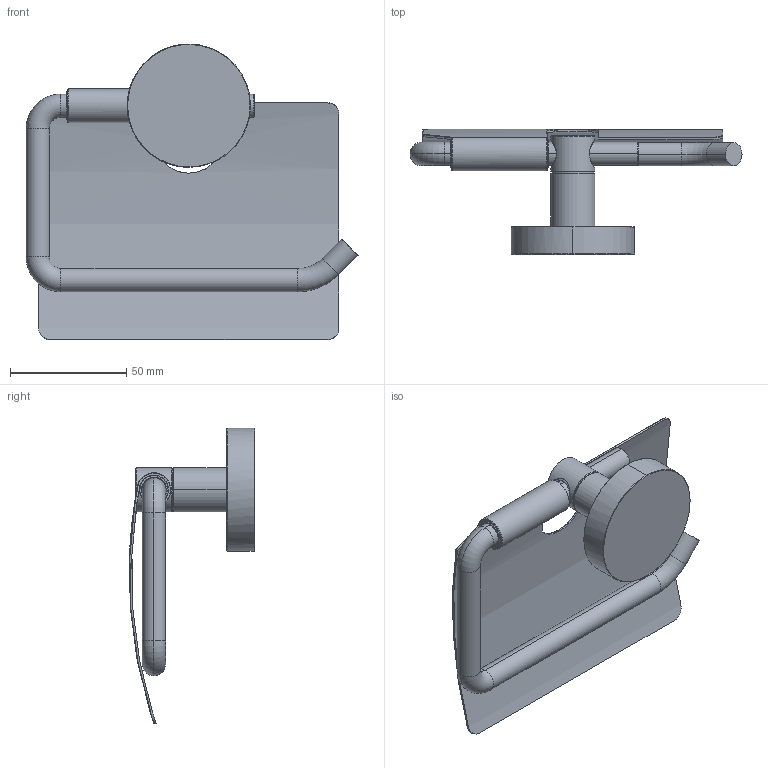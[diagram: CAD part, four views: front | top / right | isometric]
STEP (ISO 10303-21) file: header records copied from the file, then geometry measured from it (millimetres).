
FILE_DESCRIPTION(('THIS FILE CONTAINS SOME STEP INSTANCES'),'1');
FILE_NAME('HAR 048-light.stp','2015-11-18T 9:20:06',('UNDEFINED'),('UNDEFINED'),'T-FLEX CAD STEP converter','T-FLEX CAD','');
FILE_SCHEMA(('CONFIG_CONTROL_DESIGN'));
Length unit declared in the file: metre
Products named in the file (3): 3D 鐨飹懤艜_22; 3D 鐨飹懤艜_16; har_048
Bounding box: 142.68 x 53.81 x 127.19 mm (x, y, z)
Volume: 75020.9 mm3; surface area: 47689.2 mm2
Topology: 3 solids, 3 shells, 109 faces, 249 edges, 148 vertices
Faces by surface type: cylinder 38, cone 28, plane 20, bspline 17, torus 6
Entity records: 9486 total; most frequent: CARTESIAN_POINT 7408, ORIENTED_EDGE 498, DIRECTION 309, EDGE_CURVE 249, VERTEX_POINT 148, AXIS2_PLACEMENT_3D 116, EDGE_LOOP 115, ADVANCED_FACE 109
